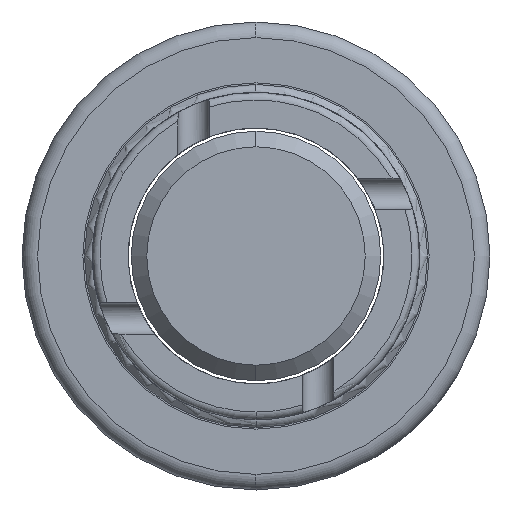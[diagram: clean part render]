
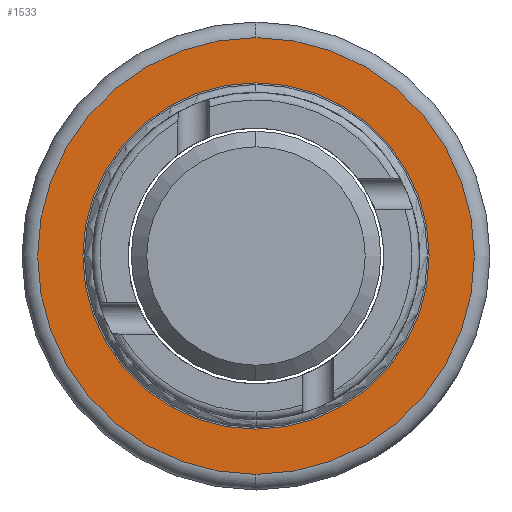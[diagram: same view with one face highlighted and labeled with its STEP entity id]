
A CAD part, left-side view. The second image highlights one B-rep face of the part: STEP entity #1533.
In plain terms, the highlighted planar face has unit normal (-1, 0, 0).
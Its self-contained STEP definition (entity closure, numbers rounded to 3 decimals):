
#12 = DIRECTION ( 'NONE',  ( -1., 0., 0. ) ) ;
#39 = CIRCLE ( 'NONE', #1544, 11.1 ) ;
#49 = DIRECTION ( 'NONE',  ( -1., 0., 0. ) ) ;
#187 = CARTESIAN_POINT ( 'NONE',  ( -22.834, 0.191, 59. ) ) ;
#341 = VERTEX_POINT ( 'NONE', #1261 ) ;
#430 = EDGE_CURVE ( 'NONE', #2141, #3118, #2765, .T. ) ;
#523 = ORIENTED_EDGE ( 'NONE', *, *, #798, .T. ) ;
#783 = EDGE_LOOP ( 'NONE', ( #811, #2615 ) ) ;
#798 = EDGE_CURVE ( 'NONE', #3118, #2141, #3193, .T. ) ;
#811 = ORIENTED_EDGE ( 'NONE', *, *, #1010, .F. ) ;
#1010 = EDGE_CURVE ( 'NONE', #341, #2383, #39, .T. ) ;
#1261 = CARTESIAN_POINT ( 'NONE',  ( -22.834, 0.191, 56.1 ) ) ;
#1283 = DIRECTION ( 'NONE',  ( 0., 0., 1. ) ) ;
#1303 = DIRECTION ( 'NONE',  ( 0., 0., 1. ) ) ;
#1350 = DIRECTION ( 'NONE',  ( 0., 0., 1. ) ) ;
#1410 = DIRECTION ( 'NONE',  ( -1., 0., 0. ) ) ;
#1533 = ADVANCED_FACE ( 'NONE', ( #1664, #2104 ), #2931, .T. ) ;
#1538 = EDGE_LOOP ( 'NONE', ( #523, #2969 ) ) ;
#1544 = AXIS2_PLACEMENT_3D ( 'NONE', #1809, #1559, #1283 ) ;
#1559 = DIRECTION ( 'NONE',  ( -1., 0., 0. ) ) ;
#1653 = DIRECTION ( 'NONE',  ( 0., 0., 1. ) ) ;
#1664 = FACE_BOUND ( 'NONE', #783, .T. ) ;
#1670 = EDGE_CURVE ( 'NONE', #2383, #341, #2555, .T. ) ;
#1809 = CARTESIAN_POINT ( 'NONE',  ( -22.834, 0.191, 45. ) ) ;
#1948 = DIRECTION ( 'NONE',  ( -1., 0., 0. ) ) ;
#1977 = DIRECTION ( 'NONE',  ( 0., 0., 1. ) ) ;
#2104 = FACE_OUTER_BOUND ( 'NONE', #1538, .T. ) ;
#2118 = CARTESIAN_POINT ( 'NONE',  ( -22.834, 0.191, 33.9 ) ) ;
#2141 = VERTEX_POINT ( 'NONE', #2572 ) ;
#2369 = CARTESIAN_POINT ( 'NONE',  ( -22.834, 0.191, 45. ) ) ;
#2383 = VERTEX_POINT ( 'NONE', #2118 ) ;
#2555 = CIRCLE ( 'NONE', #2781, 11.1 ) ;
#2572 = CARTESIAN_POINT ( 'NONE',  ( -22.834, 0.191, 31. ) ) ;
#2615 = ORIENTED_EDGE ( 'NONE', *, *, #1670, .F. ) ;
#2629 = AXIS2_PLACEMENT_3D ( 'NONE', #2943, #49, #1350 ) ;
#2765 = CIRCLE ( 'NONE', #3422, 14. ) ;
#2781 = AXIS2_PLACEMENT_3D ( 'NONE', #3038, #1948, #1977 ) ;
#2931 = PLANE ( 'NONE',  #2985 ) ;
#2943 = CARTESIAN_POINT ( 'NONE',  ( -22.834, 0.191, 45. ) ) ;
#2969 = ORIENTED_EDGE ( 'NONE', *, *, #430, .T. ) ;
#2985 = AXIS2_PLACEMENT_3D ( 'NONE', #2369, #12, #1303 ) ;
#2994 = CARTESIAN_POINT ( 'NONE',  ( -22.834, 0.191, 45. ) ) ;
#3038 = CARTESIAN_POINT ( 'NONE',  ( -22.834, 0.191, 45. ) ) ;
#3118 = VERTEX_POINT ( 'NONE', #187 ) ;
#3193 = CIRCLE ( 'NONE', #2629, 14. ) ;
#3422 = AXIS2_PLACEMENT_3D ( 'NONE', #2994, #1410, #1653 ) ;
